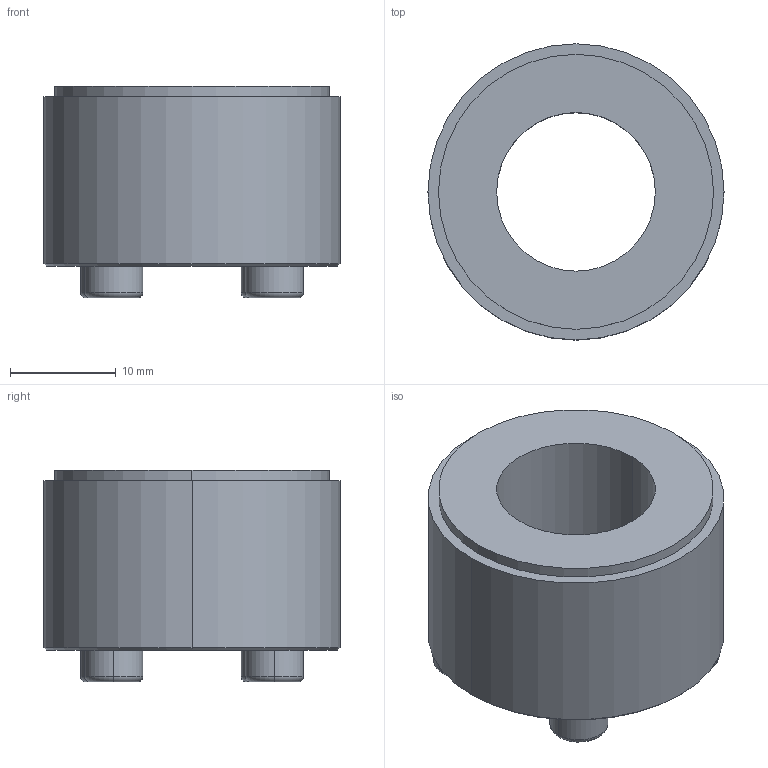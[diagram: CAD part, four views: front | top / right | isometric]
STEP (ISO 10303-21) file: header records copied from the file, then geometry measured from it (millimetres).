
FILE_DESCRIPTION (( 'STEP AP203' ), '1' );
FILE_NAME ('PL-B 15-28.STEP', '2021-10-22T07:45:24', ( '' ), ( '' ), 'SwSTEP 2.0', 'SolidWorks 2018', '' );
FILE_SCHEMA (( 'CONFIG_CONTROL_DESIGN' ));
Length unit declared in the file: millimetre
Products named in the file (1): PL-B 15-28
Bounding box: 28 x 28 x 20 mm (x, y, z)
Volume: 7629.5 mm3; surface area: 3389.6 mm2
Topology: 1 solids, 1 shells, 61 faces, 138 edges, 88 vertices
Faces by surface type: plane 35, cylinder 14, torus 8, cone 4
Entity records: 1785 total; most frequent: DIRECTION 310, CARTESIAN_POINT 288, ORIENTED_EDGE 276, EDGE_CURVE 138, AXIS2_PLACEMENT_3D 110, VECTOR 90, LINE 90, VERTEX_POINT 88
